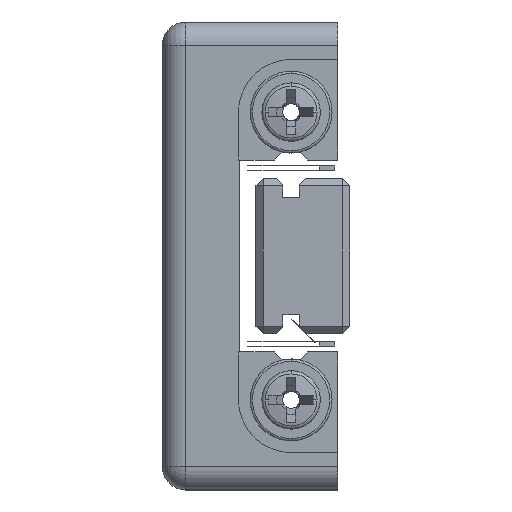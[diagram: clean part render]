
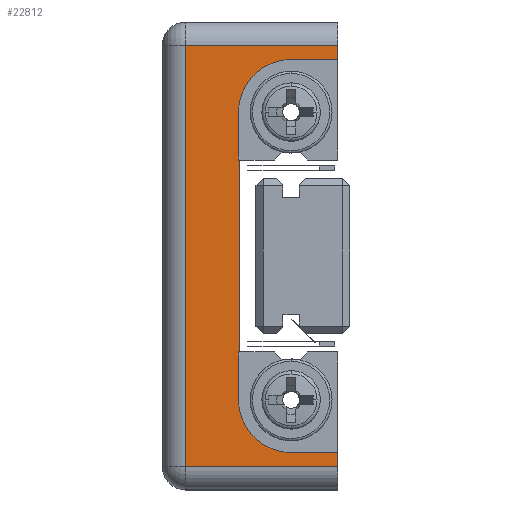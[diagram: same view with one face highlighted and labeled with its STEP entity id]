
A CAD part, left-side view. The second image highlights one B-rep face of the part: STEP entity #22812.
In plain terms, the highlighted planar face has unit normal (-1, 0, 0).
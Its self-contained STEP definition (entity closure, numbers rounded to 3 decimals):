
#529 = DIRECTION ( 'NONE',  ( 0., 1., 0. ) ) ;
#679 = CIRCLE ( 'NONE', #17418, 2.25 ) ;
#749 = LINE ( 'NONE', #6830, #22226 ) ;
#1207 = VERTEX_POINT ( 'NONE', #19075 ) ;
#1397 = CARTESIAN_POINT ( 'NONE',  ( -27.224, -2.917, 6.15 ) ) ;
#2069 = DIRECTION ( 'NONE',  ( 0., 0., -1. ) ) ;
#2476 = CARTESIAN_POINT ( 'NONE',  ( -27.224, -2.917, -8.4 ) ) ;
#2974 = VERTEX_POINT ( 'NONE', #6396 ) ;
#3196 = EDGE_CURVE ( 'NONE', #4889, #21500, #4360, .T. ) ;
#3502 = DIRECTION ( 'NONE',  ( 0., 0., 1. ) ) ;
#3808 = CARTESIAN_POINT ( 'NONE',  ( -27.224, -4.917, 4.1 ) ) ;
#3809 = CARTESIAN_POINT ( 'NONE',  ( -27.224, 1.583, 9. ) ) ;
#3868 = LINE ( 'NONE', #3808, #26628 ) ;
#3929 = VECTOR ( 'NONE', #529, 1000. ) ;
#3954 = CARTESIAN_POINT ( 'NONE',  ( -27.224, 1.583, -9. ) ) ;
#4089 = EDGE_CURVE ( 'NONE', #2974, #15858, #14370, .T. ) ;
#4097 = EDGE_LOOP ( 'NONE', ( #13300, #21039, #17922, #13645, #16585, #19869, #19960, #9895, #19586, #8394, #13550, #23869, #10402, #4536 ) ) ;
#4360 = LINE ( 'NONE', #19562, #19652 ) ;
#4526 = EDGE_CURVE ( 'NONE', #11611, #22471, #18290, .T. ) ;
#4536 = ORIENTED_EDGE ( 'NONE', *, *, #13458, .T. ) ;
#4537 = CARTESIAN_POINT ( 'NONE',  ( -27.224, 2.583, 9. ) ) ;
#4616 = CARTESIAN_POINT ( 'NONE',  ( -27.224, -0.717, -4.1 ) ) ;
#4889 = VERTEX_POINT ( 'NONE', #23657 ) ;
#5173 = VERTEX_POINT ( 'NONE', #3809 ) ;
#6156 = DIRECTION ( 'NONE',  ( 1., 0., 0. ) ) ;
#6334 = EDGE_CURVE ( 'NONE', #15858, #24765, #679, .T. ) ;
#6392 = CARTESIAN_POINT ( 'NONE',  ( -27.224, -0.717, 4.1 ) ) ;
#6396 = CARTESIAN_POINT ( 'NONE',  ( -27.224, -4.917, -8.4 ) ) ;
#6525 = VERTEX_POINT ( 'NONE', #4616 ) ;
#6680 = VECTOR ( 'NONE', #19339, 1000. ) ;
#6830 = CARTESIAN_POINT ( 'NONE',  ( -27.224, 2.583, -9. ) ) ;
#6928 = DIRECTION ( 'NONE',  ( 0., 0., -1. ) ) ;
#6978 = CARTESIAN_POINT ( 'NONE',  ( -27.224, -0.667, -6.15 ) ) ;
#7250 = CIRCLE ( 'NONE', #19700, 2.25 ) ;
#7376 = LINE ( 'NONE', #10564, #12212 ) ;
#7654 = VERTEX_POINT ( 'NONE', #24546 ) ;
#7671 = EDGE_CURVE ( 'NONE', #1207, #11611, #3868, .T. ) ;
#8149 = VECTOR ( 'NONE', #12367, 1000. ) ;
#8228 = CARTESIAN_POINT ( 'NONE',  ( -27.224, -4.917, -10. ) ) ;
#8394 = ORIENTED_EDGE ( 'NONE', *, *, #23808, .T. ) ;
#9218 = DIRECTION ( 'NONE',  ( 0., 0., 1. ) ) ;
#9895 = ORIENTED_EDGE ( 'NONE', *, *, #25666, .T. ) ;
#10402 = ORIENTED_EDGE ( 'NONE', *, *, #22210, .T. ) ;
#10526 = EDGE_CURVE ( 'NONE', #25266, #2974, #24712, .T. ) ;
#10564 = CARTESIAN_POINT ( 'NONE',  ( -27.224, -2.917, 8.4 ) ) ;
#10760 = LINE ( 'NONE', #4537, #3929 ) ;
#10906 = CARTESIAN_POINT ( 'NONE',  ( -27.224, -4.917, 9. ) ) ;
#11006 = CARTESIAN_POINT ( 'NONE',  ( -27.224, -4.917, -9. ) ) ;
#11157 = LINE ( 'NONE', #23560, #16010 ) ;
#11611 = VERTEX_POINT ( 'NONE', #12499 ) ;
#12182 = LINE ( 'NONE', #17237, #6680 ) ;
#12212 = VECTOR ( 'NONE', #12626, 1000. ) ;
#12266 = CARTESIAN_POINT ( 'NONE',  ( -27.224, -4.917, -4.1 ) ) ;
#12367 = DIRECTION ( 'NONE',  ( 0., 0., 1. ) ) ;
#12444 = CARTESIAN_POINT ( 'NONE',  ( -27.224, 2.583, -10. ) ) ;
#12499 = CARTESIAN_POINT ( 'NONE',  ( -27.224, -0.667, 4.1 ) ) ;
#12626 = DIRECTION ( 'NONE',  ( 0., -1., 0. ) ) ;
#13060 = AXIS2_PLACEMENT_3D ( 'NONE', #12444, #14519, #2069 ) ;
#13115 = VECTOR ( 'NONE', #26820, 1000. ) ;
#13300 = ORIENTED_EDGE ( 'NONE', *, *, #3196, .T. ) ;
#13458 = EDGE_CURVE ( 'NONE', #7654, #4889, #7376, .T. ) ;
#13550 = ORIENTED_EDGE ( 'NONE', *, *, #7671, .T. ) ;
#13645 = ORIENTED_EDGE ( 'NONE', *, *, #16351, .T. ) ;
#14370 = LINE ( 'NONE', #22509, #19273 ) ;
#14519 = DIRECTION ( 'NONE',  ( 1., 0., 0. ) ) ;
#14727 = DIRECTION ( 'NONE',  ( 0., 0., 1. ) ) ;
#15161 = DIRECTION ( 'NONE',  ( 0., -1., 0. ) ) ;
#15858 = VERTEX_POINT ( 'NONE', #2476 ) ;
#15927 = DIRECTION ( 'NONE',  ( 1., 0., 0. ) ) ;
#16010 = VECTOR ( 'NONE', #6928, 1000. ) ;
#16351 = EDGE_CURVE ( 'NONE', #26432, #25266, #749, .T. ) ;
#16384 = EDGE_CURVE ( 'NONE', #5173, #26432, #11157, .T. ) ;
#16585 = ORIENTED_EDGE ( 'NONE', *, *, #10526, .T. ) ;
#17237 = CARTESIAN_POINT ( 'NONE',  ( -27.224, -0.667, -6.15 ) ) ;
#17418 = AXIS2_PLACEMENT_3D ( 'NONE', #18611, #6156, #20688 ) ;
#17922 = ORIENTED_EDGE ( 'NONE', *, *, #16384, .T. ) ;
#18290 = LINE ( 'NONE', #19841, #22518 ) ;
#18334 = DIRECTION ( 'NONE',  ( 0., 1., 0. ) ) ;
#18611 = CARTESIAN_POINT ( 'NONE',  ( -27.224, -2.917, -6.15 ) ) ;
#19075 = CARTESIAN_POINT ( 'NONE',  ( -27.224, -0.717, 4.1 ) ) ;
#19273 = VECTOR ( 'NONE', #18334, 1000. ) ;
#19339 = DIRECTION ( 'NONE',  ( 0., 0., 1. ) ) ;
#19562 = CARTESIAN_POINT ( 'NONE',  ( -27.224, -4.917, -10. ) ) ;
#19586 = ORIENTED_EDGE ( 'NONE', *, *, #19874, .T. ) ;
#19652 = VECTOR ( 'NONE', #9218, 1000. ) ;
#19700 = AXIS2_PLACEMENT_3D ( 'NONE', #1397, #15927, #3502 ) ;
#19841 = CARTESIAN_POINT ( 'NONE',  ( -27.224, -0.667, 6.15 ) ) ;
#19869 = ORIENTED_EDGE ( 'NONE', *, *, #4089, .T. ) ;
#19874 = EDGE_CURVE ( 'NONE', #26403, #6525, #24850, .T. ) ;
#19960 = ORIENTED_EDGE ( 'NONE', *, *, #6334, .T. ) ;
#20152 = VECTOR ( 'NONE', #14727, 1000. ) ;
#20433 = DIRECTION ( 'NONE',  ( 0., 1., 0. ) ) ;
#20688 = DIRECTION ( 'NONE',  ( 0., 0., -1. ) ) ;
#21039 = ORIENTED_EDGE ( 'NONE', *, *, #22917, .T. ) ;
#21500 = VERTEX_POINT ( 'NONE', #10906 ) ;
#22210 = EDGE_CURVE ( 'NONE', #22471, #7654, #7250, .T. ) ;
#22226 = VECTOR ( 'NONE', #15161, 1000. ) ;
#22471 = VERTEX_POINT ( 'NONE', #23480 ) ;
#22509 = CARTESIAN_POINT ( 'NONE',  ( -27.224, -2.917, -8.4 ) ) ;
#22518 = VECTOR ( 'NONE', #26124, 1000. ) ;
#22812 = ADVANCED_FACE ( 'NONE', ( #23138 ), #24910, .F. ) ;
#22917 = EDGE_CURVE ( 'NONE', #21500, #5173, #10760, .T. ) ;
#23138 = FACE_OUTER_BOUND ( 'NONE', #4097, .T. ) ;
#23480 = CARTESIAN_POINT ( 'NONE',  ( -27.224, -0.667, 6.15 ) ) ;
#23560 = CARTESIAN_POINT ( 'NONE',  ( -27.224, 1.583, -10. ) ) ;
#23657 = CARTESIAN_POINT ( 'NONE',  ( -27.224, -4.917, 8.4 ) ) ;
#23808 = EDGE_CURVE ( 'NONE', #6525, #1207, #25699, .T. ) ;
#23869 = ORIENTED_EDGE ( 'NONE', *, *, #4526, .T. ) ;
#24546 = CARTESIAN_POINT ( 'NONE',  ( -27.224, -2.917, 8.4 ) ) ;
#24681 = CARTESIAN_POINT ( 'NONE',  ( -27.224, -0.667, -4.1 ) ) ;
#24712 = LINE ( 'NONE', #8228, #8149 ) ;
#24765 = VERTEX_POINT ( 'NONE', #6978 ) ;
#24850 = LINE ( 'NONE', #12266, #13115 ) ;
#24910 = PLANE ( 'NONE',  #13060 ) ;
#25266 = VERTEX_POINT ( 'NONE', #11006 ) ;
#25666 = EDGE_CURVE ( 'NONE', #24765, #26403, #12182, .T. ) ;
#25699 = LINE ( 'NONE', #6392, #20152 ) ;
#26124 = DIRECTION ( 'NONE',  ( 0., 0., 1. ) ) ;
#26403 = VERTEX_POINT ( 'NONE', #24681 ) ;
#26432 = VERTEX_POINT ( 'NONE', #3954 ) ;
#26628 = VECTOR ( 'NONE', #20433, 1000. ) ;
#26820 = DIRECTION ( 'NONE',  ( 0., -1., 0. ) ) ;
